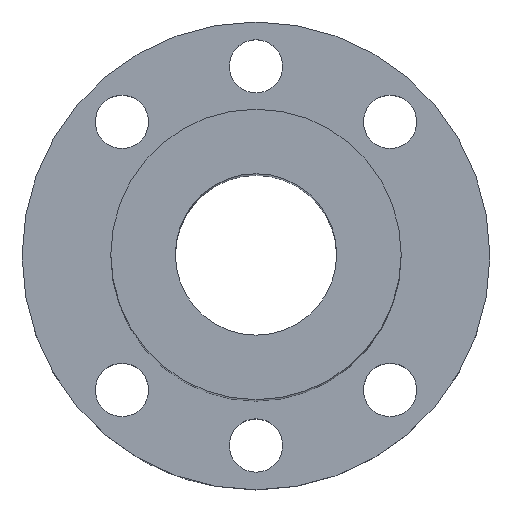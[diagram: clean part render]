
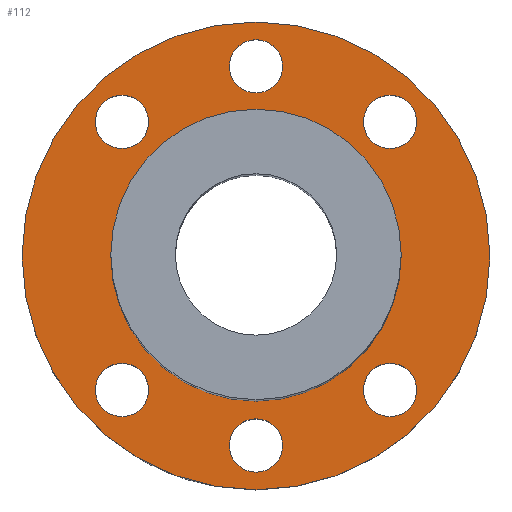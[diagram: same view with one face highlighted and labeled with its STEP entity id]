
A CAD part, top view. The second image highlights one B-rep face of the part: STEP entity #112.
In plain terms, the highlighted planar face has unit normal (0, 0, 1).
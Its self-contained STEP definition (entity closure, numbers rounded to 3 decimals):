
#99=PLANE('',#355);
#112=ADVANCED_FACE('',(#159,#160,#161,#162,#163,#164,#165,#166),#99,.T.);
#159=FACE_BOUND('',#203,.T.);
#160=FACE_BOUND('',#204,.T.);
#161=FACE_BOUND('',#205,.T.);
#162=FACE_BOUND('',#206,.T.);
#163=FACE_BOUND('',#207,.T.);
#164=FACE_BOUND('',#208,.T.);
#165=FACE_BOUND('',#209,.T.);
#166=FACE_BOUND('',#210,.T.);
#203=EDGE_LOOP('',(#247));
#204=EDGE_LOOP('',(#248));
#205=EDGE_LOOP('',(#249));
#206=EDGE_LOOP('',(#250));
#207=EDGE_LOOP('',(#251));
#208=EDGE_LOOP('',(#252));
#209=EDGE_LOOP('',(#253));
#210=EDGE_LOOP('',(#254));
#247=ORIENTED_EDGE('',*,*,#284,.T.);
#248=ORIENTED_EDGE('',*,*,#286,.T.);
#249=ORIENTED_EDGE('',*,*,#301,.F.);
#250=ORIENTED_EDGE('',*,*,#300,.T.);
#251=ORIENTED_EDGE('',*,*,#299,.F.);
#252=ORIENTED_EDGE('',*,*,#298,.F.);
#253=ORIENTED_EDGE('',*,*,#297,.T.);
#254=ORIENTED_EDGE('',*,*,#302,.T.);
#262=VERTEX_POINT('',#437);
#264=VERTEX_POINT('',#499);
#275=VERTEX_POINT('',#582);
#276=VERTEX_POINT('',#585);
#277=VERTEX_POINT('',#588);
#278=VERTEX_POINT('',#591);
#279=VERTEX_POINT('',#594);
#280=VERTEX_POINT('',#597);
#284=EDGE_CURVE('',#262,#262,#306,.T.);
#286=EDGE_CURVE('',#264,#264,#307,.T.);
#297=EDGE_CURVE('',#275,#275,#317,.T.);
#298=EDGE_CURVE('',#276,#276,#318,.T.);
#299=EDGE_CURVE('',#277,#277,#319,.T.);
#300=EDGE_CURVE('',#278,#278,#320,.T.);
#301=EDGE_CURVE('',#279,#279,#321,.T.);
#302=EDGE_CURVE('',#280,#280,#322,.T.);
#306=CIRCLE('',#327,29.);
#307=CIRCLE('',#329,18.);
#317=CIRCLE('',#343,3.3);
#318=CIRCLE('',#345,3.3);
#319=CIRCLE('',#347,3.3);
#320=CIRCLE('',#349,3.3);
#321=CIRCLE('',#351,3.3);
#322=CIRCLE('',#353,3.3);
#327=AXIS2_PLACEMENT_3D('',#436,#365,#366);
#329=AXIS2_PLACEMENT_3D('',#498,#369,#370);
#343=AXIS2_PLACEMENT_3D('',#581,#397,#398);
#345=AXIS2_PLACEMENT_3D('',#584,#401,#402);
#347=AXIS2_PLACEMENT_3D('',#587,#405,#406);
#349=AXIS2_PLACEMENT_3D('',#590,#409,#410);
#351=AXIS2_PLACEMENT_3D('',#593,#413,#414);
#353=AXIS2_PLACEMENT_3D('',#596,#417,#418);
#355=AXIS2_PLACEMENT_3D('',#599,#421,#422);
#365=DIRECTION('',(0.,0.,1.));
#366=DIRECTION('',(1.,0.,0.));
#369=DIRECTION('',(0.,0.,-1.));
#370=DIRECTION('',(1.,0.,0.));
#397=DIRECTION('',(0.,0.,-1.));
#398=DIRECTION('',(1.,0.,0.));
#401=DIRECTION('',(0.,0.,1.));
#402=DIRECTION('',(1.,0.,0.));
#405=DIRECTION('',(0.,0.,1.));
#406=DIRECTION('',(1.,0.,0.));
#409=DIRECTION('',(0.,0.,-1.));
#410=DIRECTION('',(1.,0.,0.));
#413=DIRECTION('',(0.,0.,1.));
#414=DIRECTION('',(-1.,0.,0.));
#417=DIRECTION('',(0.,0.,-1.));
#418=DIRECTION('',(-1.,0.,0.));
#421=DIRECTION('',(0.,0.,1.));
#422=DIRECTION('',(1.,0.,0.));
#436=CARTESIAN_POINT('',(0.,0.,10.));
#437=CARTESIAN_POINT('',(29.,0.,10.));
#498=CARTESIAN_POINT('',(0.,0.,10.));
#499=CARTESIAN_POINT('',(18.,0.,10.));
#581=CARTESIAN_POINT('',(-16.617,-16.617,10.));
#582=CARTESIAN_POINT('',(-13.317,-16.617,10.));
#584=CARTESIAN_POINT('',(-16.617,16.617,10.));
#585=CARTESIAN_POINT('',(-13.317,16.617,10.));
#587=CARTESIAN_POINT('',(0.,23.5,10.));
#588=CARTESIAN_POINT('',(3.3,23.5,10.));
#590=CARTESIAN_POINT('',(0.,-23.5,10.));
#591=CARTESIAN_POINT('',(3.3,-23.5,10.));
#593=CARTESIAN_POINT('',(16.617,-16.617,10.));
#594=CARTESIAN_POINT('',(13.317,-16.617,10.));
#596=CARTESIAN_POINT('',(16.617,16.617,10.));
#597=CARTESIAN_POINT('',(13.317,16.617,10.));
#599=CARTESIAN_POINT('',(5.539,-5.539,10.));
